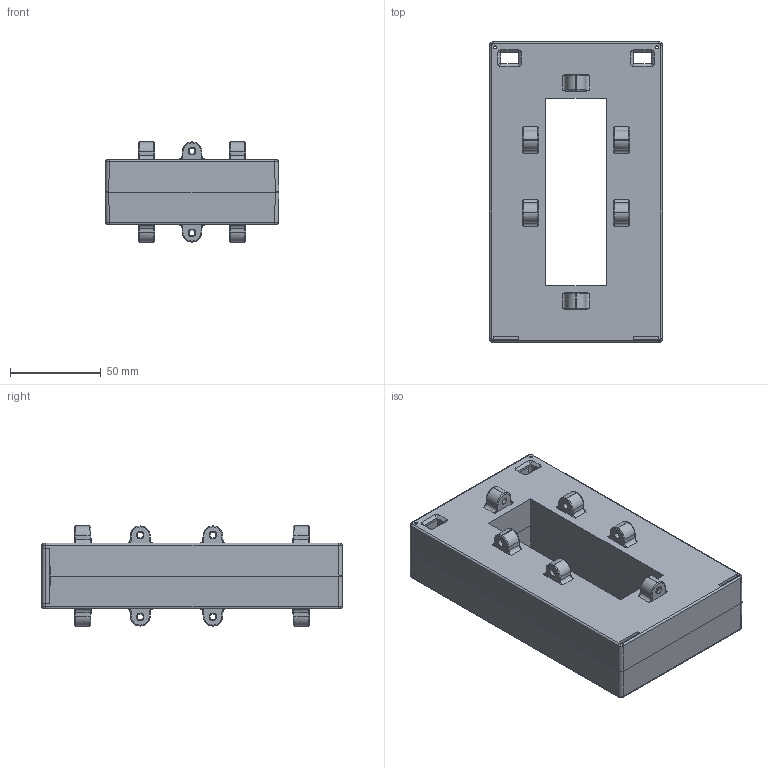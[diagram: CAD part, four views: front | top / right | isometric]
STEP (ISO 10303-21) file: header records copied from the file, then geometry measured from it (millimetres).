
FILE_DESCRIPTION (( 'STEP AP214' ), '1' );
FILE_NAME ('TU100ps.STEP', '2025-12-13T01:41:50', ( '' ), ( '' ), 'SwSTEP 2.0', 'SolidWorks 2022', '' );
FILE_SCHEMA (( 'AUTOMOTIVE_DESIGN' ));
Length unit declared in the file: millimetre
Products named in the file (1): TU100ps
Bounding box: 95.44 x 165.44 x 55 mm (x, y, z)
Surface area: 114834.5 mm2 (no closed solid volume)
Topology: 0 solids, 4 shells, 810 faces, 2092 edges, 1332 vertices
Faces by surface type: plane 434, cylinder 228, bspline 114, cone 34
Entity records: 36410 total; most frequent: CARTESIAN_POINT 21371, ORIENTED_EDGE 4168, EDGE_CURVE 2092, B_SPLINE_CURVE_WITH_KNOTS 2002, DIRECTION 1394, VERTEX_POINT 1332, EDGE_LOOP 898, FACE_OUTER_BOUND 810
